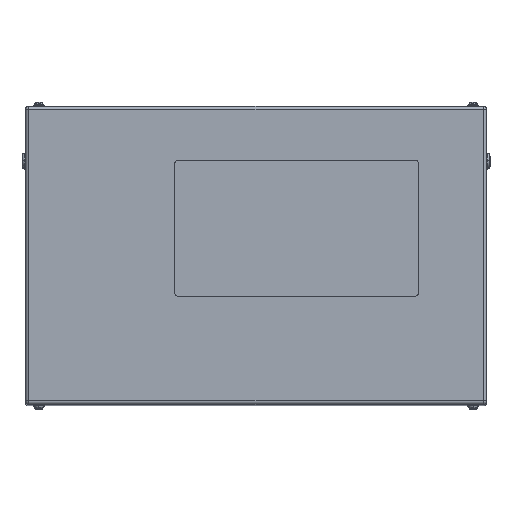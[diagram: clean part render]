
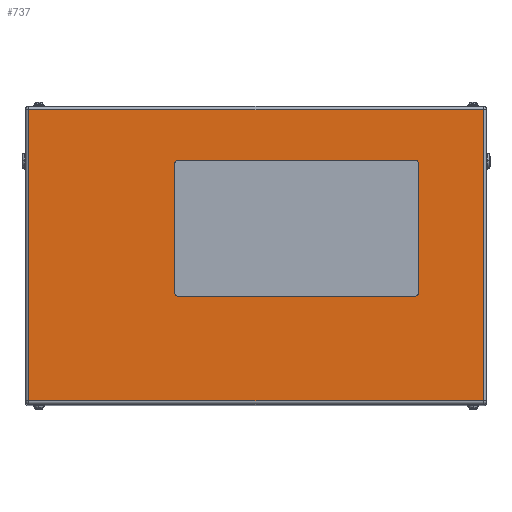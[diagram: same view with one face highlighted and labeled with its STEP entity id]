
A CAD part, top view. The second image highlights one B-rep face of the part: STEP entity #737.
In plain terms, the highlighted planar face has unit normal (0, 0, 1).
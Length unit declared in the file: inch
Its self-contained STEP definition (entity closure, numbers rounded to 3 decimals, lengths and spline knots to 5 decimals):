
#48 = VERTEX_POINT ( 'NONE', #8602 ) ;
#330 = CARTESIAN_POINT ( 'NONE',  ( -5.75, -2.75, 27. ) ) ;
#734 = CARTESIAN_POINT ( 'NONE',  ( 11.75, -2.75, 27. ) ) ;
#737 = ADVANCED_FACE ( 'NONE', ( #1864, #17787 ), #3465, .F. ) ;
#764 = CARTESIAN_POINT ( 'NONE',  ( -5.75, 7., 27. ) ) ;
#1052 = DIRECTION ( 'NONE',  ( 0., 0., 1. ) ) ;
#1603 = EDGE_CURVE ( 'NONE', #3218, #8461, #2601, .T. ) ;
#1864 = FACE_BOUND ( 'NONE', #13596, .T. ) ;
#2103 = DIRECTION ( 'NONE',  ( -1., 0., 0. ) ) ;
#2242 = AXIS2_PLACEMENT_3D ( 'NONE', #7146, #18424, #5544 ) ;
#2340 = EDGE_CURVE ( 'NONE', #5901, #11694, #9135, .T. ) ;
#2348 = EDGE_CURVE ( 'NONE', #15422, #13682, #6295, .T. ) ;
#2391 = VERTEX_POINT ( 'NONE', #19350 ) ;
#2508 = CIRCLE ( 'NONE', #8538, 0.25 ) ;
#2601 = CIRCLE ( 'NONE', #3278, 0.25 ) ;
#3175 = EDGE_CURVE ( 'NONE', #15652, #15752, #10086, .T. ) ;
#3218 = VERTEX_POINT ( 'NONE', #13545 ) ;
#3278 = AXIS2_PLACEMENT_3D ( 'NONE', #9032, #7462, #18111 ) ;
#3356 = DIRECTION ( 'NONE',  ( 1., 0., 0. ) ) ;
#3465 = PLANE ( 'NONE',  #2242 ) ;
#3507 = ORIENTED_EDGE ( 'NONE', *, *, #2340, .T. ) ;
#3571 = VECTOR ( 'NONE', #17385, 39.37008 ) ;
#3572 = CARTESIAN_POINT ( 'NONE',  ( 16.734, 10.734, 27. ) ) ;
#3990 = CARTESIAN_POINT ( 'NONE',  ( -16.734, 11., 27. ) ) ;
#4194 = CARTESIAN_POINT ( 'NONE',  ( -6., 6.75, 27. ) ) ;
#4399 = EDGE_CURVE ( 'NONE', #2391, #3218, #13483, .T. ) ;
#4593 = LINE ( 'NONE', #11041, #3571 ) ;
#4771 = DIRECTION ( 'NONE',  ( 0., 1., 0. ) ) ;
#5242 = CIRCLE ( 'NONE', #6625, 0.25 ) ;
#5544 = DIRECTION ( 'NONE',  ( -1., 0., 0. ) ) ;
#5901 = VERTEX_POINT ( 'NONE', #18708 ) ;
#6295 = CIRCLE ( 'NONE', #17957, 0.25 ) ;
#6455 = EDGE_CURVE ( 'NONE', #15752, #5901, #16572, .T. ) ;
#6625 = AXIS2_PLACEMENT_3D ( 'NONE', #330, #12923, #13333 ) ;
#6787 = ORIENTED_EDGE ( 'NONE', *, *, #14095, .T. ) ;
#7146 = CARTESIAN_POINT ( 'NONE',  ( 17., 11., 27. ) ) ;
#7424 = VECTOR ( 'NONE', #10038, 39.37008 ) ;
#7462 = DIRECTION ( 'NONE',  ( 0., 0., 1. ) ) ;
#7569 = EDGE_CURVE ( 'NONE', #13682, #13377, #14061, .T. ) ;
#8461 = VERTEX_POINT ( 'NONE', #10003 ) ;
#8538 = AXIS2_PLACEMENT_3D ( 'NONE', #734, #1052, #16667 ) ;
#8571 = CARTESIAN_POINT ( 'NONE',  ( 12., 6.75, 27. ) ) ;
#8602 = CARTESIAN_POINT ( 'NONE',  ( -5.75, -3., 27. ) ) ;
#9032 = CARTESIAN_POINT ( 'NONE',  ( 11.75, 6.75, 27. ) ) ;
#9135 = LINE ( 'NONE', #15528, #9960 ) ;
#9415 = LINE ( 'NONE', #15794, #15738 ) ;
#9512 = ORIENTED_EDGE ( 'NONE', *, *, #16919, .F. ) ;
#9702 = ORIENTED_EDGE ( 'NONE', *, *, #6455, .T. ) ;
#9705 = ORIENTED_EDGE ( 'NONE', *, *, #7569, .F. ) ;
#9960 = VECTOR ( 'NONE', #13960, 39.37008 ) ;
#10003 = CARTESIAN_POINT ( 'NONE',  ( 11.75, 7., 27. ) ) ;
#10038 = DIRECTION ( 'NONE',  ( 0., 1., 0. ) ) ;
#10086 = LINE ( 'NONE', #16483, #13704 ) ;
#10418 = DIRECTION ( 'NONE',  ( 0., -1., 0. ) ) ;
#10944 = CARTESIAN_POINT ( 'NONE',  ( -5.75, 6.75, 27. ) ) ;
#11041 = CARTESIAN_POINT ( 'NONE',  ( -5.75, -3., 27. ) ) ;
#11461 = EDGE_LOOP ( 'NONE', ( #9702, #3507, #6787, #15318 ) ) ;
#11506 = ORIENTED_EDGE ( 'NONE', *, *, #11624, .F. ) ;
#11612 = LINE ( 'NONE', #17746, #14964 ) ;
#11624 = EDGE_CURVE ( 'NONE', #48, #17849, #4593, .T. ) ;
#11694 = VERTEX_POINT ( 'NONE', #19322 ) ;
#12400 = EDGE_CURVE ( 'NONE', #13377, #48, #5242, .T. ) ;
#12420 = CARTESIAN_POINT ( 'NONE',  ( -6., 6.75, 27. ) ) ;
#12923 = DIRECTION ( 'NONE',  ( 0., 0., 1. ) ) ;
#12966 = DIRECTION ( 'NONE',  ( -1., 0., 0. ) ) ;
#13333 = DIRECTION ( 'NONE',  ( 1., 0., 0. ) ) ;
#13377 = VERTEX_POINT ( 'NONE', #18508 ) ;
#13483 = LINE ( 'NONE', #8571, #7424 ) ;
#13545 = CARTESIAN_POINT ( 'NONE',  ( 12., 6.75, 27. ) ) ;
#13596 = EDGE_LOOP ( 'NONE', ( #11506, #14896, #9705, #13599, #9512, #17076, #19301, #14322 ) ) ;
#13599 = ORIENTED_EDGE ( 'NONE', *, *, #2348, .F. ) ;
#13682 = VERTEX_POINT ( 'NONE', #12420 ) ;
#13704 = VECTOR ( 'NONE', #2103, 39.37008 ) ;
#13960 = DIRECTION ( 'NONE',  ( 1., 0., 0. ) ) ;
#14061 = LINE ( 'NONE', #4194, #17071 ) ;
#14095 = EDGE_CURVE ( 'NONE', #11694, #15652, #11612, .T. ) ;
#14322 = ORIENTED_EDGE ( 'NONE', *, *, #19218, .F. ) ;
#14708 = CARTESIAN_POINT ( 'NONE',  ( 11.75, -3., 27. ) ) ;
#14896 = ORIENTED_EDGE ( 'NONE', *, *, #12400, .F. ) ;
#14964 = VECTOR ( 'NONE', #4771, 39.37008 ) ;
#15318 = ORIENTED_EDGE ( 'NONE', *, *, #3175, .T. ) ;
#15422 = VERTEX_POINT ( 'NONE', #764 ) ;
#15528 = CARTESIAN_POINT ( 'NONE',  ( 16.734, -10.734, 27. ) ) ;
#15652 = VERTEX_POINT ( 'NONE', #3572 ) ;
#15738 = VECTOR ( 'NONE', #12966, 39.37008 ) ;
#15752 = VERTEX_POINT ( 'NONE', #16469 ) ;
#15794 = CARTESIAN_POINT ( 'NONE',  ( -5.75, 7., 27. ) ) ;
#16469 = CARTESIAN_POINT ( 'NONE',  ( -16.734, 10.734, 27. ) ) ;
#16483 = CARTESIAN_POINT ( 'NONE',  ( 17., 10.734, 27. ) ) ;
#16572 = LINE ( 'NONE', #3990, #19320 ) ;
#16667 = DIRECTION ( 'NONE',  ( 1., 0., 0. ) ) ;
#16919 = EDGE_CURVE ( 'NONE', #8461, #15422, #9415, .T. ) ;
#17071 = VECTOR ( 'NONE', #20245, 39.37008 ) ;
#17076 = ORIENTED_EDGE ( 'NONE', *, *, #1603, .F. ) ;
#17290 = DIRECTION ( 'NONE',  ( 0., 0., 1. ) ) ;
#17385 = DIRECTION ( 'NONE',  ( 1., 0., 0. ) ) ;
#17746 = CARTESIAN_POINT ( 'NONE',  ( 16.734, 11., 27. ) ) ;
#17787 = FACE_OUTER_BOUND ( 'NONE', #11461, .T. ) ;
#17849 = VERTEX_POINT ( 'NONE', #14708 ) ;
#17957 = AXIS2_PLACEMENT_3D ( 'NONE', #10944, #17290, #3356 ) ;
#18111 = DIRECTION ( 'NONE',  ( -1., 0., 0. ) ) ;
#18424 = DIRECTION ( 'NONE',  ( 0., 0., -1. ) ) ;
#18508 = CARTESIAN_POINT ( 'NONE',  ( -6., -2.75, 27. ) ) ;
#18708 = CARTESIAN_POINT ( 'NONE',  ( -16.734, -10.734, 27. ) ) ;
#19218 = EDGE_CURVE ( 'NONE', #17849, #2391, #2508, .T. ) ;
#19301 = ORIENTED_EDGE ( 'NONE', *, *, #4399, .F. ) ;
#19320 = VECTOR ( 'NONE', #10418, 39.37008 ) ;
#19322 = CARTESIAN_POINT ( 'NONE',  ( 16.734, -10.734, 27. ) ) ;
#19350 = CARTESIAN_POINT ( 'NONE',  ( 12., -2.75, 27. ) ) ;
#20245 = DIRECTION ( 'NONE',  ( 0., -1., 0. ) ) ;
